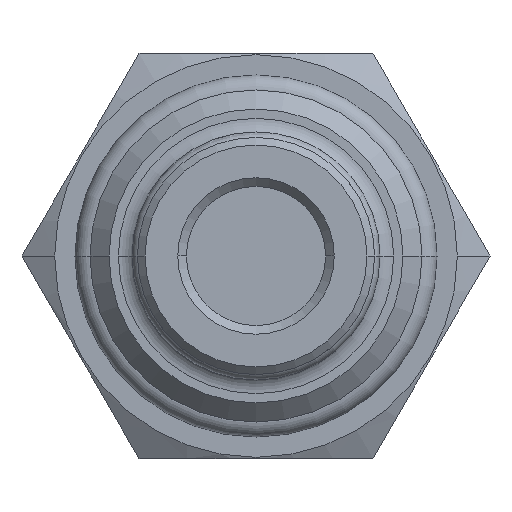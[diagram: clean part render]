
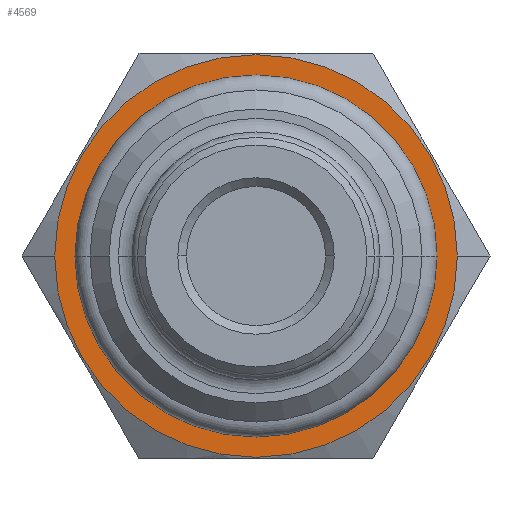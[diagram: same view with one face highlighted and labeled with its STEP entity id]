
A CAD part, front view. The second image highlights one B-rep face of the part: STEP entity #4569.
In plain terms, the highlighted planar face has unit normal (0, -1, 0).
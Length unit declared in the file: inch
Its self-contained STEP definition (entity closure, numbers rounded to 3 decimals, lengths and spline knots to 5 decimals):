
#970=CARTESIAN_POINT('',(0.,0.,0.));
#971=DIRECTION('',(0.,-1.,0.));
#972=DIRECTION('',(1.,0.,0.));
#973=AXIS2_PLACEMENT_3D('',#970,#971,#972);
#978=CARTESIAN_POINT('',(0.,0.,0.));
#979=DIRECTION('',(0.,1.,0.));
#980=DIRECTION('',(1.,0.,0.));
#981=AXIS2_PLACEMENT_3D('',#978,#979,#980);
#986=CARTESIAN_POINT('',(0.,0.,0.));
#987=DIRECTION('',(0.,1.,0.));
#988=DIRECTION('',(1.,0.,0.));
#989=AXIS2_PLACEMENT_3D('',#986,#987,#988);
#994=CARTESIAN_POINT('',(0.,0.,0.));
#995=DIRECTION('',(0.,1.,0.));
#996=DIRECTION('',(-1.,0.,0.));
#997=AXIS2_PLACEMENT_3D('',#994,#995,#996);
#4108=CARTESIAN_POINT('',(0.5275,0.,0.));
#4110=VERTEX_POINT('',#4108);
#4112=CARTESIAN_POINT('',(-0.5275,0.,0.));
#4114=VERTEX_POINT('',#4112);
#4261=CARTESIAN_POINT('',(0.43357,0.,0.));
#4262=CARTESIAN_POINT('',(-0.43357,0.,0.));
#4263=VERTEX_POINT('',#4261);
#4264=VERTEX_POINT('',#4262);
#4554=CARTESIAN_POINT('',(0.,0.,0.));
#4555=DIRECTION('',(0.,1.,0.));
#4556=DIRECTION('',(1.,0.,0.));
#4557=AXIS2_PLACEMENT_3D('',#4554,#4555,#4556);
#4558=PLANE('',#4557);
#4559=ORIENTED_EDGE('',*,*,#4547,.F.);
#4560=ORIENTED_EDGE('',*,*,#4536,.T.);
#4561=EDGE_LOOP('',(#4559,#4560));
#4562=FACE_OUTER_BOUND('',#4561,.F.);
#4564=ORIENTED_EDGE('',*,*,#4563,.F.);
#4566=ORIENTED_EDGE('',*,*,#4565,.F.);
#4567=EDGE_LOOP('',(#4564,#4566));
#4568=FACE_BOUND('',#4567,.F.);
#974=CIRCLE('',#973,0.5275);
#982=CIRCLE('',#981,0.5275);
#990=CIRCLE('',#989,0.43357);
#998=CIRCLE('',#997,0.43357);
#4536=EDGE_CURVE('',#4110,#4114,#982,.T.);
#4547=EDGE_CURVE('',#4110,#4114,#974,.T.);
#4563=EDGE_CURVE('',#4263,#4264,#990,.T.);
#4565=EDGE_CURVE('',#4264,#4263,#998,.T.);
#4569=ADVANCED_FACE('',(#4562,#4568),#4558,.F.);
